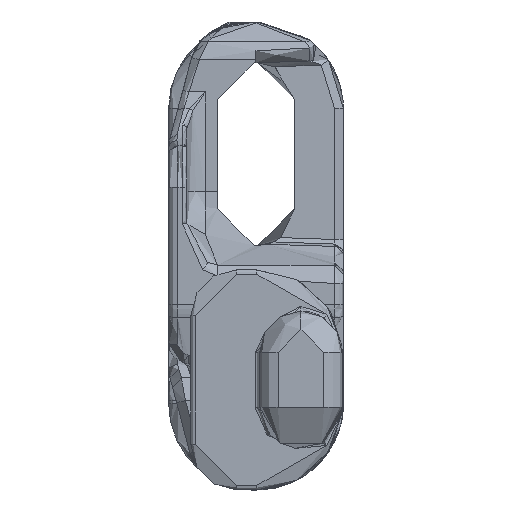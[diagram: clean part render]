
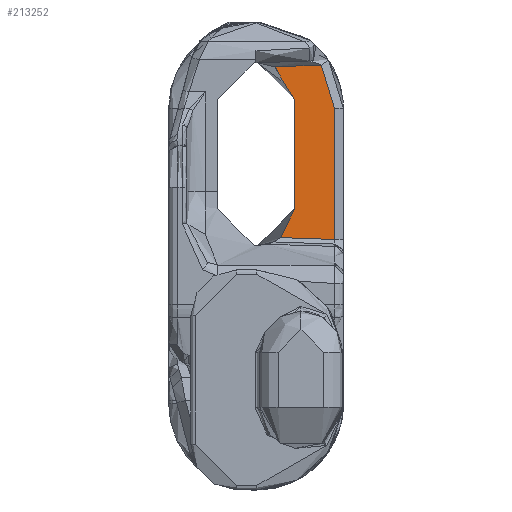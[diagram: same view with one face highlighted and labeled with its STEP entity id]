
A CAD part, left-side view. The second image highlights one B-rep face of the part: STEP entity #213252.
In plain terms, the highlighted planar face has unit normal (-0.999, -0.035, 0).
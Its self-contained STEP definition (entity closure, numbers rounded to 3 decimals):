
#6562 = VERTEX_POINT ( 'NONE', #202066 ) ;
#6636 = VERTEX_POINT ( 'NONE', #203542 ) ;
#6647 = EDGE_CURVE ( 'NONE', #6636, #6562, #203269, .T. ) ;
#161606 = CARTESIAN_POINT ( 'NONE',  ( -224.251, -7.684, 56.771 ) ) ;
#163696 = CARTESIAN_POINT ( 'NONE',  ( -224.21, -8.851, 55.905 ) ) ;
#163759 = CARTESIAN_POINT ( 'NONE',  ( -224.174, -9.88, 53.2 ) ) ;
#163760 = CARTESIAN_POINT ( 'NONE',  ( -224.174, -9.88, 53.563 ) ) ;
#163762 = CARTESIAN_POINT ( 'NONE',  ( -224.176, -9.832, 53.919 ) ) ;
#163764 = CARTESIAN_POINT ( 'NONE',  ( -224.18, -9.723, 54.312 ) ) ;
#163765 = CARTESIAN_POINT ( 'NONE',  ( -224.18, -9.709, 54.359 ) ) ;
#163766 = CARTESIAN_POINT ( 'NONE',  ( -224.181, -9.681, 54.449 ) ) ;
#163779 = CARTESIAN_POINT ( 'NONE',  ( -224.191, -9.386, 55.135 ) ) ;
#163781 = CARTESIAN_POINT ( 'NONE',  ( -224.202, -9.089, 55.618 ) ) ;
#163783 = CARTESIAN_POINT ( 'NONE',  ( -224.222, -8.505, 56.219 ) ) ;
#163785 = CARTESIAN_POINT ( 'NONE',  ( -224.225, -8.436, 56.278 ) ) ;
#163792 = CARTESIAN_POINT ( 'NONE',  ( -224.221, -8.537, 56.191 ) ) ;
#163798 = CARTESIAN_POINT ( 'NONE',  ( -224.183, -9.636, 54.582 ) ) ;
#163799 = CARTESIAN_POINT ( 'NONE',  ( -224.187, -9.516, 54.886 ) ) ;
#165709 = VERTEX_POINT ( 'NONE', #161606 ) ;
#165963 = VERTEX_POINT ( 'NONE', #216818 ) ;
#165995 = EDGE_CURVE ( 'NONE', #165709, #165963, #216907, .T. ) ;
#178094 = DIRECTION ( 'NONE',  ( 0., 0., -1. ) ) ;
#178095 = CARTESIAN_POINT ( 'NONE',  ( -224.174, -9.88, 41.3 ) ) ;
#178096 = LINE ( 'NONE', #178095, #178107 ) ;
#178107 = VECTOR ( 'NONE', #178094, 1000. ) ;
#178681 = CARTESIAN_POINT ( 'NONE',  ( -224.072, -12.803, 56.949 ) ) ;
#179121 = CARTESIAN_POINT ( 'NONE',  ( -224.228, -8.354, 38.157 ) ) ;
#179141 = CARTESIAN_POINT ( 'NONE',  ( -224.022, -14.24, 37.951 ) ) ;
#179142 = LINE ( 'NONE', #179141, #179160 ) ;
#179144 = PLANE ( 'NONE',  #179150 ) ;
#179150 = AXIS2_PLACEMENT_3D ( 'NONE', #179171, #179153, #179166 ) ;
#179153 = DIRECTION ( 'NONE',  ( 0.999, 0.035, 0. ) ) ;
#179156 = CARTESIAN_POINT ( 'NONE',  ( -224.228, -8.354, 38.157 ) ) ;
#179158 = DIRECTION ( 'NONE',  ( -0.035, 0.999, 0.035 ) ) ;
#179159 = B_SPLINE_CURVE_WITH_KNOTS ( 'NONE', 3,
 ( #179156, #179196, #179195, #179194, #179193, #179192 ),
 .UNSPECIFIED., .F., .F.,
 ( 4, 2, 4 ),
 ( 0., 0.5, 1. ),
 .UNSPECIFIED. ) ;
#179160 = VECTOR ( 'NONE', #179158, 1000. ) ;
#179166 = DIRECTION ( 'NONE',  ( -0.035, 0.999, 0. ) ) ;
#179168 = FACE_OUTER_BOUND ( 'NONE', #212779, .T. ) ;
#179171 = CARTESIAN_POINT ( 'NONE',  ( -224.321, -5.68, 58.56 ) ) ;
#179178 = CARTESIAN_POINT ( 'NONE',  ( -224.022, -14.24, 52.25 ) ) ;
#179179 = CARTESIAN_POINT ( 'NONE',  ( -224.022, -14.24, 52.451 ) ) ;
#179180 = CARTESIAN_POINT ( 'NONE',  ( -224.023, -14.225, 52.865 ) ) ;
#179181 = CARTESIAN_POINT ( 'NONE',  ( -224.025, -14.157, 53.49 ) ) ;
#179182 = CARTESIAN_POINT ( 'NONE',  ( -224.029, -14.038, 54.12 ) ) ;
#179183 = CARTESIAN_POINT ( 'NONE',  ( -224.035, -13.871, 54.74 ) ) ;
#179184 = CARTESIAN_POINT ( 'NONE',  ( -224.042, -13.658, 55.345 ) ) ;
#179185 = CARTESIAN_POINT ( 'NONE',  ( -224.051, -13.399, 55.932 ) ) ;
#179186 = CARTESIAN_POINT ( 'NONE',  ( -224.061, -13.113, 56.468 ) ) ;
#179187 = CARTESIAN_POINT ( 'NONE',  ( -224.069, -12.903, 56.801 ) ) ;
#179188 = CARTESIAN_POINT ( 'NONE',  ( -224.072, -12.803, 56.949 ) ) ;
#179190 =( BOUNDED_CURVE ( )  B_SPLINE_CURVE ( 3, ( #179188, #179187, #179186, #179185, #179184, #179183, #179182, #179181, #179180, #179179, #179178 ),
 .UNSPECIFIED., .F., .T. ) 
 B_SPLINE_CURVE_WITH_KNOTS ( ( 4, 1, 1, 1, 1, 1, 1, 1, 4 ),
 ( 0., 0.108, 0.237, 0.365, 0.494, 0.622, 0.751, 0.879, 1. ),
 .UNSPECIFIED. ) 
 CURVE ( )  GEOMETRIC_REPRESENTATION_ITEM ( )  RATIONAL_B_SPLINE_CURVE ( ( 1.165, 1.165, 1.165, 1.165, 1.165, 1.165, 1.165, 1.165, 1.165, 1.165, 1.165 ) ) 
 REPRESENTATION_ITEM ( '' )  );
#179192 = CARTESIAN_POINT ( 'NONE',  ( -224.174, -9.88, 41.3 ) ) ;
#179193 = CARTESIAN_POINT ( 'NONE',  ( -224.174, -9.88, 40.742 ) ) ;
#179194 = CARTESIAN_POINT ( 'NONE',  ( -224.179, -9.762, 40.16 ) ) ;
#179195 = CARTESIAN_POINT ( 'NONE',  ( -224.196, -9.253, 39.067 ) ) ;
#179196 = CARTESIAN_POINT ( 'NONE',  ( -224.21, -8.863, 38.557 ) ) ;
#179453 = VECTOR ( 'NONE', #179462, 1000. ) ;
#179462 = DIRECTION ( 'NONE',  ( 0.035, -0.999, 0.035 ) ) ;
#179467 = CARTESIAN_POINT ( 'NONE',  ( -224.251, -7.684, 56.771 ) ) ;
#179478 = CARTESIAN_POINT ( 'NONE',  ( -224.174, -9.88, 41.3 ) ) ;
#182883 = LINE ( 'NONE', #179467, #179453 ) ;
#202066 = CARTESIAN_POINT ( 'NONE',  ( -224.022, -14.24, 37.951 ) ) ;
#203223 = DIRECTION ( 'NONE',  ( 0., 0., -1. ) ) ;
#203227 = VECTOR ( 'NONE', #203223, 1000. ) ;
#203231 = CARTESIAN_POINT ( 'NONE',  ( -224.022, -14.24, 52.299 ) ) ;
#203269 = LINE ( 'NONE', #203231, #203227 ) ;
#203542 = CARTESIAN_POINT ( 'NONE',  ( -224.022, -14.24, 52.25 ) ) ;
#212779 = EDGE_LOOP ( 'NONE', ( #213014, #213020, #213258, #213079, #213275, #213569, #213696 ) ) ;
#212834 = EDGE_CURVE ( 'NONE', #165963, #213353, #178096, .T. ) ;
#213014 = ORIENTED_EDGE ( 'NONE', *, *, #165995, .T. ) ;
#213017 = VERTEX_POINT ( 'NONE', #178681 ) ;
#213020 = ORIENTED_EDGE ( 'NONE', *, *, #212834, .T. ) ;
#213079 = ORIENTED_EDGE ( 'NONE', *, *, #213279, .F. ) ;
#213246 = VERTEX_POINT ( 'NONE', #179121 ) ;
#213252 = ADVANCED_FACE ( 'NONE', ( #179168 ), #179144, .F. ) ;
#213258 = ORIENTED_EDGE ( 'NONE', *, *, #213272, .F. ) ;
#213272 = EDGE_CURVE ( 'NONE', #213246, #213353, #179159, .T. ) ;
#213275 = ORIENTED_EDGE ( 'NONE', *, *, #6647, .F. ) ;
#213279 = EDGE_CURVE ( 'NONE', #6562, #213246, #179142, .T. ) ;
#213284 = EDGE_CURVE ( 'NONE', #213017, #6636, #179190, .T. ) ;
#213353 = VERTEX_POINT ( 'NONE', #179478 ) ;
#213569 = ORIENTED_EDGE ( 'NONE', *, *, #213284, .F. ) ;
#213696 = ORIENTED_EDGE ( 'NONE', *, *, #213809, .F. ) ;
#213809 = EDGE_CURVE ( 'NONE', #165709, #213017, #182883, .T. ) ;
#216818 = CARTESIAN_POINT ( 'NONE',  ( -224.174, -9.88, 53.2 ) ) ;
#216899 = CARTESIAN_POINT ( 'NONE',  ( -224.228, -8.332, 56.364 ) ) ;
#216900 = CARTESIAN_POINT ( 'NONE',  ( -224.237, -8.079, 56.551 ) ) ;
#216901 = CARTESIAN_POINT ( 'NONE',  ( -224.245, -7.846, 56.689 ) ) ;
#216902 = CARTESIAN_POINT ( 'NONE',  ( -224.251, -7.684, 56.771 ) ) ;
#216907 = B_SPLINE_CURVE_WITH_KNOTS ( 'NONE', 3,
 ( #216902, #216901, #216900, #216899, #163785, #163783, #163792, #163696, #163781, #163779, #163799, #163798, #163766, #163765, #163764, #163762, #163760, #163759 ),
 .UNSPECIFIED., .F., .F.,
 ( 4, 1, 1, 2, 2, 2, 1, 1, 2, 2, 4 ),
 ( 0., 0.125, 0.188, 0.219, 0.25, 0.5, 0.625, 0.688, 0.719, 0.75, 1. ),
 .UNSPECIFIED. ) ;
